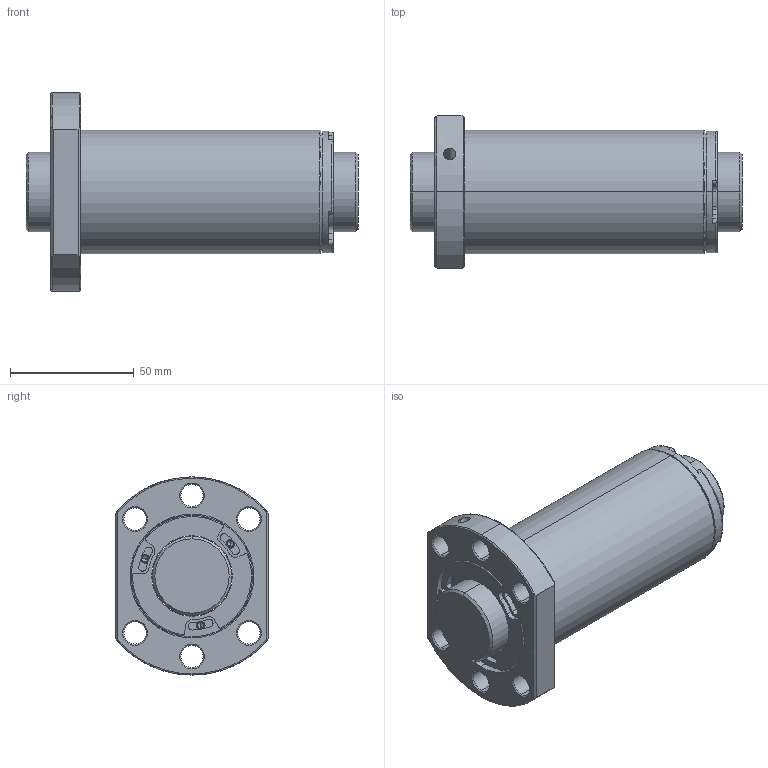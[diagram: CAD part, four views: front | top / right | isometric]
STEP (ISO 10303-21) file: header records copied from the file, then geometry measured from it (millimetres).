
FILE_DESCRIPTION (( 'STEP AP203' ), '1' );
FILE_NAME ('SFSR03232B1D-C.STEP', '2020-06-17T01:50:01', ( '' ), ( '' ), 'SwSTEP 2.0', 'SolidWorks 2013', '' );
FILE_SCHEMA (( 'CONFIG_CONTROL_DESIGN' ));
Length unit declared in the file: millimetre
Products named in the file (1): SFSR03232B1D-C
Bounding box: 134 x 62 x 80 mm (x, y, z)
Volume: 253384.6 mm3; surface area: 56786.3 mm2
Topology: 2 solids, 2 shells, 263 faces, 674 edges, 419 vertices
Faces by surface type: cylinder 128, plane 66, cone 52, torus 17
Entity records: 9736 total; most frequent: CARTESIAN_POINT 3078, DIRECTION 1514, ORIENTED_EDGE 1324, EDGE_CURVE 662, AXIS2_PLACEMENT_3D 639, VERTEX_POINT 419, CIRCLE 375, EDGE_LOOP 297
